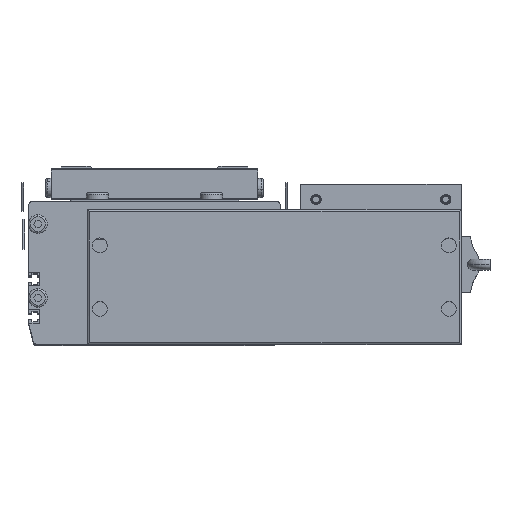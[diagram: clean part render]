
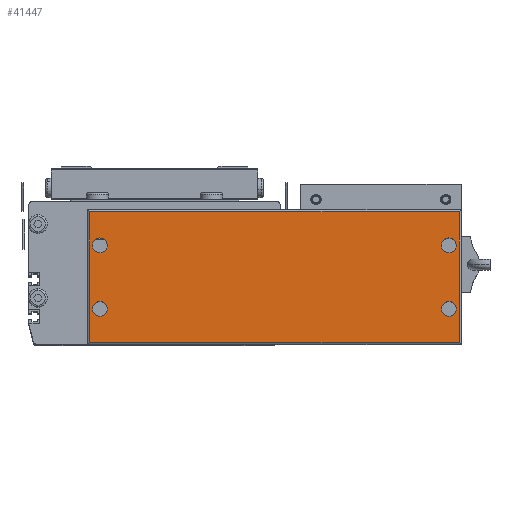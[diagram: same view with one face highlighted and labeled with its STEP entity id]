
A CAD part, top view. The second image highlights one B-rep face of the part: STEP entity #41447.
In plain terms, the highlighted planar face has unit normal (0, 0, 1).
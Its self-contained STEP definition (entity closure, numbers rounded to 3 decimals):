
#34792 = VERTEX_POINT ( 'NONE', #82424 ) ;
#34809 = VERTEX_POINT ( 'NONE', #82547 ) ;
#34823 = VERTEX_POINT ( 'NONE', #82487 ) ;
#34862 = VERTEX_POINT ( 'NONE', #82378 ) ;
#34928 = EDGE_CURVE ( 'NONE', #34792, #34862, #82353, .T. ) ;
#34991 = VERTEX_POINT ( 'NONE', #82826 ) ;
#35090 = EDGE_CURVE ( 'NONE', #34991, #34809, #82736, .T. ) ;
#35373 = VERTEX_POINT ( 'NONE', #83170 ) ;
#35419 = VERTEX_POINT ( 'NONE', #83294 ) ;
#35430 = VERTEX_POINT ( 'NONE', #83173 ) ;
#35711 = EDGE_CURVE ( 'NONE', #35373, #34823, #84057, .T. ) ;
#35849 = EDGE_CURVE ( 'NONE', #35419, #35430, #84148, .T. ) ;
#40876 = EDGE_LOOP ( 'NONE', ( #41075, #40890 ) ) ;
#40881 = EDGE_CURVE ( 'NONE', #34862, #34792, #91627, .T. ) ;
#40888 = ORIENTED_EDGE ( 'NONE', *, *, #40881, .F. ) ;
#40890 = ORIENTED_EDGE ( 'NONE', *, *, #35090, .F. ) ;
#40921 = EDGE_LOOP ( 'NONE', ( #40930, #41406 ) ) ;
#40930 = ORIENTED_EDGE ( 'NONE', *, *, #41404, .F. ) ;
#40938 = EDGE_LOOP ( 'NONE', ( #40946, #41182, #41425, #42101 ) ) ;
#40943 = ORIENTED_EDGE ( 'NONE', *, *, #35711, .F. ) ;
#40946 = ORIENTED_EDGE ( 'NONE', *, *, #41601, .T. ) ;
#40948 = VERTEX_POINT ( 'NONE', #91721 ) ;
#41069 = VERTEX_POINT ( 'NONE', #91824 ) ;
#41075 = ORIENTED_EDGE ( 'NONE', *, *, #41470, .F. ) ;
#41168 = EDGE_LOOP ( 'NONE', ( #40888, #41454 ) ) ;
#41177 = EDGE_CURVE ( 'NONE', #41069, #42158, #92263, .T. ) ;
#41182 = ORIENTED_EDGE ( 'NONE', *, *, #41177, .T. ) ;
#41382 = VERTEX_POINT ( 'NONE', #93023 ) ;
#41404 = EDGE_CURVE ( 'NONE', #35430, #35419, #92928, .T. ) ;
#41406 = ORIENTED_EDGE ( 'NONE', *, *, #35849, .F. ) ;
#41425 = ORIENTED_EDGE ( 'NONE', *, *, #41430, .T. ) ;
#41430 = EDGE_CURVE ( 'NONE', #42158, #41382, #92387, .T. ) ;
#41447 = ADVANCED_FACE ( 'NONE', ( #93128, #93149, #92019, #92404, #92657 ), #93520, .T. ) ;
#41454 = ORIENTED_EDGE ( 'NONE', *, *, #34928, .F. ) ;
#41464 = EDGE_LOOP ( 'NONE', ( #41467, #40943 ) ) ;
#41467 = ORIENTED_EDGE ( 'NONE', *, *, #41472, .F. ) ;
#41470 = EDGE_CURVE ( 'NONE', #34809, #34991, #93404, .T. ) ;
#41472 = EDGE_CURVE ( 'NONE', #34823, #35373, #93410, .T. ) ;
#41601 = EDGE_CURVE ( 'NONE', #40948, #41069, #93262, .T. ) ;
#41745 = EDGE_CURVE ( 'NONE', #41382, #40948, #93676, .T. ) ;
#42101 = ORIENTED_EDGE ( 'NONE', *, *, #41745, .T. ) ;
#42158 = VERTEX_POINT ( 'NONE', #94844 ) ;
#82327 = DIRECTION ( 'NONE',  ( 1., 0., 0. ) ) ;
#82328 = DIRECTION ( 'NONE',  ( 0., 0., 1. ) ) ;
#82329 = CARTESIAN_POINT ( 'NONE',  ( -29.25, 53., 44. ) ) ;
#82330 = AXIS2_PLACEMENT_3D ( 'NONE', #82329, #82328, #82327 ) ;
#82353 = CIRCLE ( 'NONE', #82330, 4. ) ;
#82378 = CARTESIAN_POINT ( 'NONE',  ( -25.25, 53., 44. ) ) ;
#82424 = CARTESIAN_POINT ( 'NONE',  ( -33.25, 53., 44. ) ) ;
#82487 = CARTESIAN_POINT ( 'NONE',  ( 161.75, 19., 44. ) ) ;
#82547 = CARTESIAN_POINT ( 'NONE',  ( -25.25, 19., 44. ) ) ;
#82689 = AXIS2_PLACEMENT_3D ( 'NONE', #82991, #82720, #82718 ) ;
#82718 = DIRECTION ( 'NONE',  ( 1., 0., 0. ) ) ;
#82720 = DIRECTION ( 'NONE',  ( 0., 0., 1. ) ) ;
#82736 = CIRCLE ( 'NONE', #82689, 4. ) ;
#82826 = CARTESIAN_POINT ( 'NONE',  ( -33.25, 19., 44. ) ) ;
#82991 = CARTESIAN_POINT ( 'NONE',  ( -29.25, 19., 44. ) ) ;
#83170 = CARTESIAN_POINT ( 'NONE',  ( 153.75, 19., 44. ) ) ;
#83173 = CARTESIAN_POINT ( 'NONE',  ( 161.75, 53., 44. ) ) ;
#83294 = CARTESIAN_POINT ( 'NONE',  ( 153.75, 53., 44. ) ) ;
#83796 = DIRECTION ( 'NONE',  ( 1., 0., 0. ) ) ;
#83797 = DIRECTION ( 'NONE',  ( 0., 0., 1. ) ) ;
#84037 = AXIS2_PLACEMENT_3D ( 'NONE', #84040, #83797, #83796 ) ;
#84040 = CARTESIAN_POINT ( 'NONE',  ( 157.75, 19., 44. ) ) ;
#84057 = CIRCLE ( 'NONE', #84037, 4. ) ;
#84144 = DIRECTION ( 'NONE',  ( 1., 0., 0. ) ) ;
#84145 = DIRECTION ( 'NONE',  ( 0., 0., 1. ) ) ;
#84146 = CARTESIAN_POINT ( 'NONE',  ( 157.75, 53., 44. ) ) ;
#84147 = AXIS2_PLACEMENT_3D ( 'NONE', #84146, #84145, #84144 ) ;
#84148 = CIRCLE ( 'NONE', #84147, 4. ) ;
#91500 = AXIS2_PLACEMENT_3D ( 'NONE', #91705, #91704, #91703 ) ;
#91627 = CIRCLE ( 'NONE', #91500, 4. ) ;
#91703 = DIRECTION ( 'NONE',  ( 1., 0., 0. ) ) ;
#91704 = DIRECTION ( 'NONE',  ( 0., 0., 1. ) ) ;
#91705 = CARTESIAN_POINT ( 'NONE',  ( -29.25, 53., 44. ) ) ;
#91721 = CARTESIAN_POINT ( 'NONE',  ( -34.75, 1., 44. ) ) ;
#91824 = CARTESIAN_POINT ( 'NONE',  ( 163.25, 1., 44. ) ) ;
#92019 = FACE_BOUND ( 'NONE', #41464, .T. ) ;
#92258 = DIRECTION ( 'NONE',  ( 0., 1., 0. ) ) ;
#92260 = VECTOR ( 'NONE', #92258, 1000. ) ;
#92262 = CARTESIAN_POINT ( 'NONE',  ( 163.25, 72., 44. ) ) ;
#92263 = LINE ( 'NONE', #92262, #92260 ) ;
#92386 = CARTESIAN_POINT ( 'NONE',  ( -35.75, 71., 44. ) ) ;
#92387 = LINE ( 'NONE', #92386, #92393 ) ;
#92392 = DIRECTION ( 'NONE',  ( -1., 0., 0. ) ) ;
#92393 = VECTOR ( 'NONE', #92392, 1000. ) ;
#92404 = FACE_BOUND ( 'NONE', #40921, .T. ) ;
#92657 = FACE_OUTER_BOUND ( 'NONE', #40938, .T. ) ;
#92794 = CARTESIAN_POINT ( 'NONE',  ( 157.75, 53., 44. ) ) ;
#92913 = AXIS2_PLACEMENT_3D ( 'NONE', #92794, #93151, #93150 ) ;
#92928 = CIRCLE ( 'NONE', #92913, 4. ) ;
#93023 = CARTESIAN_POINT ( 'NONE',  ( -34.75, 71., 44. ) ) ;
#93128 = FACE_BOUND ( 'NONE', #41168, .T. ) ;
#93149 = FACE_BOUND ( 'NONE', #40876, .T. ) ;
#93150 = DIRECTION ( 'NONE',  ( 1., 0., 0. ) ) ;
#93151 = DIRECTION ( 'NONE',  ( 0., 0., 1. ) ) ;
#93197 = CARTESIAN_POINT ( 'NONE',  ( 157.75, 19., 44. ) ) ;
#93199 = DIRECTION ( 'NONE',  ( 1., 0., 0. ) ) ;
#93213 = DIRECTION ( 'NONE',  ( 0., 0., 1. ) ) ;
#93215 = CARTESIAN_POINT ( 'NONE',  ( -35.75, 0., 44. ) ) ;
#93245 = AXIS2_PLACEMENT_3D ( 'NONE', #93215, #93213, #93199 ) ;
#93261 = CARTESIAN_POINT ( 'NONE',  ( 164.25, 1., 44. ) ) ;
#93262 = LINE ( 'NONE', #93261, #93555 ) ;
#93365 = DIRECTION ( 'NONE',  ( 1., 0., 0. ) ) ;
#93366 = DIRECTION ( 'NONE',  ( 0., 0., 1. ) ) ;
#93378 = DIRECTION ( 'NONE',  ( 1., 0., 0. ) ) ;
#93387 = AXIS2_PLACEMENT_3D ( 'NONE', #93197, #93408, #93378 ) ;
#93390 = CARTESIAN_POINT ( 'NONE',  ( -29.25, 19., 44. ) ) ;
#93404 = CIRCLE ( 'NONE', #93411, 4. ) ;
#93408 = DIRECTION ( 'NONE',  ( 0., 0., 1. ) ) ;
#93410 = CIRCLE ( 'NONE', #93387, 4. ) ;
#93411 = AXIS2_PLACEMENT_3D ( 'NONE', #93390, #93366, #93365 ) ;
#93520 = PLANE ( 'NONE',  #93245 ) ;
#93553 = DIRECTION ( 'NONE',  ( 1., 0., 0. ) ) ;
#93555 = VECTOR ( 'NONE', #93553, 1000. ) ;
#93674 = CARTESIAN_POINT ( 'NONE',  ( -34.75, 0., 44. ) ) ;
#93676 = LINE ( 'NONE', #93674, #93698 ) ;
#93697 = DIRECTION ( 'NONE',  ( 0., -1., 0. ) ) ;
#93698 = VECTOR ( 'NONE', #93697, 1000. ) ;
#94844 = CARTESIAN_POINT ( 'NONE',  ( 163.25, 71., 44. ) ) ;
